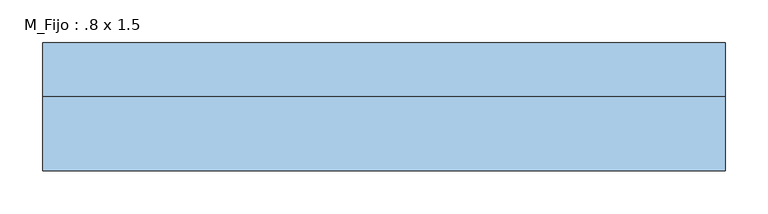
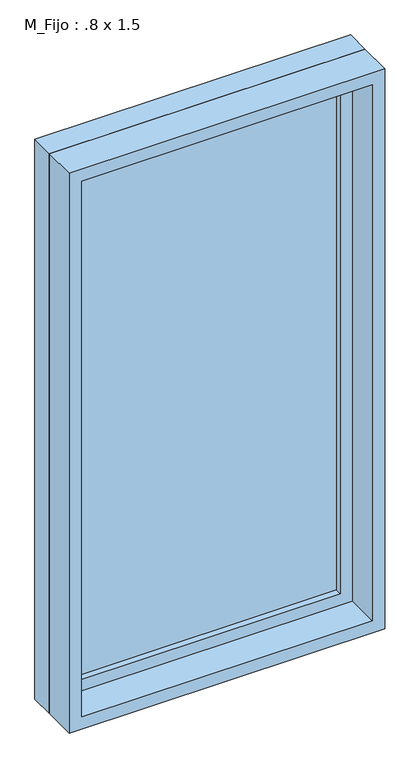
"""IFC4 building model written with IfcOpenShell, lengths in millimetres: window geometry, M_Fijo : .8 x 1.5."""

from ifc_helpers import new_model, si_unit, frame, origin, place, context, project, spatial, polyline, outline, extrude, source, transform, mapped, element, save


def m_fijo_8_x_1_5_414f3f9b(model_context):
    return source(origin(), model_context, "Body", "SweptSolid", [
        extrude(outline(polyline([(-337.0, 53.0), (337.0, 53.0), (337.0, 41.0), (-337.0, 41.0), (-337.0, 53.0)])), frame((0.0, 0.0, 978.0), z_axis=(0.0, 0.0, 1.0), x_axis=(1.0, 0.0, 0.0)), (0.0, 0.0, 1.0), 1374.0),
        extrude(outline(polyline([(2396.0, -381.0), (934.0, -381.0), (934.0, 381.0), (2396.0, 381.0), (2396.0, -381.0)]), holes=[polyline([(2352.0, -337.0), (2352.0, 337.0), (978.0, 337.0), (978.0, -337.0), (2352.0, -337.0)])]), frame((0.0, 25.0, 0.0), z_axis=(0.0, 1.0, 0.0), x_axis=(0.0, 0.0, 1.0)), (0.0, 0.0, 1.0), 44.0),
        extrude(outline(polyline([(2415.0, -400.0), (915.0, -400.0), (915.0, 400.0), (2415.0, 400.0), (2415.0, -400.0)]), holes=[polyline([(2396.0, -381.0), (2396.0, 381.0), (934.0, 381.0), (934.0, -381.0), (2396.0, -381.0)])]), frame((0.0, 25.0, 0.0), z_axis=(0.0, 1.0, 0.0), x_axis=(0.0, 0.0, 1.0)), (0.0, 0.0, 1.0), 63.0),
        extrude(outline(polyline([(2415.0, -400.0), (915.0, -400.0), (915.0, 400.0), (2415.0, 400.0), (2415.0, -400.0)]), holes=[polyline([(2383.0, -368.0), (2383.0, 368.0), (947.0, 368.0), (947.0, -368.0), (2383.0, -368.0)])]), frame((0.0, -62.0, 0.0), z_axis=(0.0, 1.0, 0.0), x_axis=(0.0, 0.0, 1.0)), (0.0, 0.0, 1.0), 87.0),
    ])


if __name__ == "__main__":
    model = new_model("IFC4")
    model_context = context("Model", 3, world=origin())
    ifc_project = project(units=[si_unit("LENGTHUNIT", "METRE", prefix="MILLI")], contexts=[model_context])
    site = spatial("IfcSite", under=ifc_project)
    building = spatial("IfcBuilding", under=site)
    placement = place(None, origin())
    m_fijo_8_x_1_5_shape = m_fijo_8_x_1_5_414f3f9b(model_context)
    element("IfcWindow", 1, ObjectType="M_Fijo : .8 x 1.5", at=placement, inside=building, context=model_context, shape_type="MappedRepresentation", body=[
        mapped(m_fijo_8_x_1_5_shape, transform((0.0, 0.0, 0.0), x_axis=(1.0, 0.0, 0.0), y_axis=(0.0, 1.0, 0.0), z_axis=(0.0, 0.0, 1.0))),
    ])
    save(model, "model.ifc")
